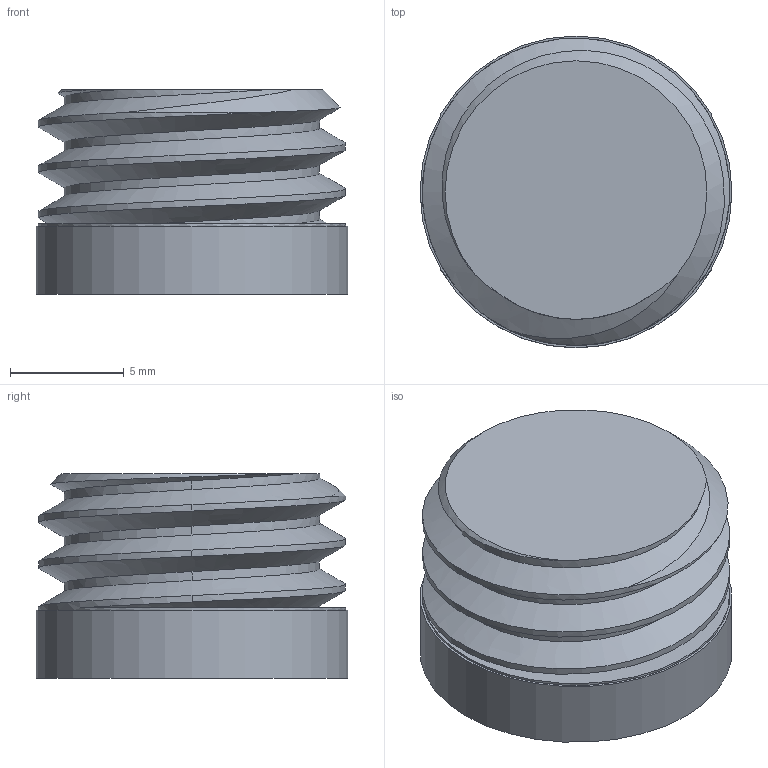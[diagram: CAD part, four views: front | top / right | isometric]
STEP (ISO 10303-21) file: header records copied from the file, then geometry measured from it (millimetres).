
FILE_DESCRIPTION(/* description */ ('','CAx-IF Rec.Pracs.---Representation and Presentation of Product Manufacturing Information (PMI)---4.0---2014-10-13'),/* implementation_level */ '2;1');
FILE_NAME(/* name */ 'Flush retaining bolt.step',/* time_stamp */ '2024-12-05T12:16:10Z',/* author */ (''),/* organization */ (''),/* preprocessor_version */ 'ST-DEVELOPER v20',/* originating_system */ 'Autodesk Translation Framework v13.20.0.188',/* authorisation */ '');
FILE_SCHEMA (('AP242_MANAGED_MODEL_BASED_3D_ENGINEERING_MIM_LF { 1 0 10303 442 1 1 4 }'));
Length unit declared in the file: millimetre
Products named in the file (1): Flush retaining bolt
Bounding box: 13.72 x 13.72 x 9 mm (x, y, z)
Volume: 1117.5 mm3; surface area: 835 mm2
Topology: 1 solids, 1 shells, 21 faces, 51 edges, 34 vertices
Faces by surface type: cylinder 9, plane 9, bspline 2, cone 1
Full cylindrical faces by diameter (mm): 11.234 x2, 13.522 x3, 13.722 x1
Entity records: 1845 total; most frequent: CARTESIAN_POINT 1355, ORIENTED_EDGE 102, DIRECTION 78, EDGE_CURVE 51, VERTEX_POINT 34, AXIS2_PLACEMENT_3D 29, EDGE_LOOP 23, B_SPLINE_CURVE_WITH_KNOTS 22
